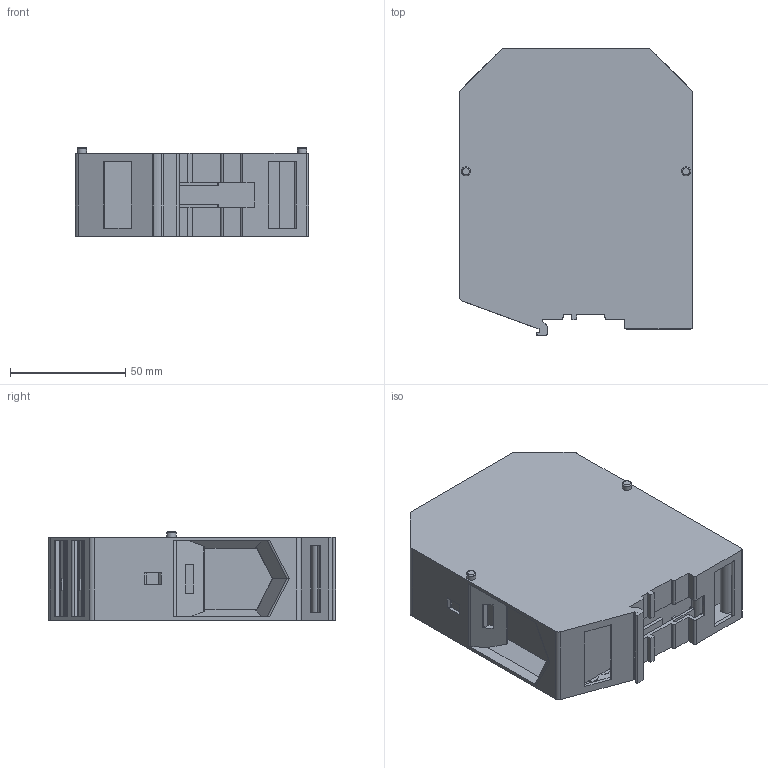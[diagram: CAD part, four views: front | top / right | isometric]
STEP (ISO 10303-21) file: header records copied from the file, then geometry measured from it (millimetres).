
FILE_DESCRIPTION( ('This file contains a STEP AP42 implementation' ,'as created by ZW3D STEP Interface translator.') ,'2;1' );
FILE_NAME( 'KRUH-240-傷赽.stp' ,'24 726.101951', (''), ('ZWCAD Software Co.'), 'Version 1.0', 'ZW3D to STEP translator', '' );
FILE_SCHEMA(('AUTOMOTIVE_DESIGN { 1 0 10303 214 1 1 1 1 }'));
Length unit declared in the file: millimetre
Products named in the file (2): 0; RUKH240-諉盄傷赽-20240517
Bounding box: 101.2 x 124.84 x 38.5 mm (x, y, z)
Volume: 313203.9 mm3; surface area: 76095.1 mm2
Topology: 1 solids, 15 shells, 653 faces, 1787 edges, 1159 vertices
Faces by surface type: plane 429, cylinder 166, bspline 44, cone 12, torus 2
Full cylindrical faces by diameter (mm): 2.5 x5, 3 x4, 4 x25, 5.85 x1, 10.2 x2
Entity records: 21783 total; most frequent: CARTESIAN_POINT 4549, ORIENTED_EDGE 3576, DIRECTION 3266, EDGE_CURVE 1787, VECTOR 1356, LINE 1356, VERTEX_POINT 1159, AXIS2_PLACEMENT_3D 955
